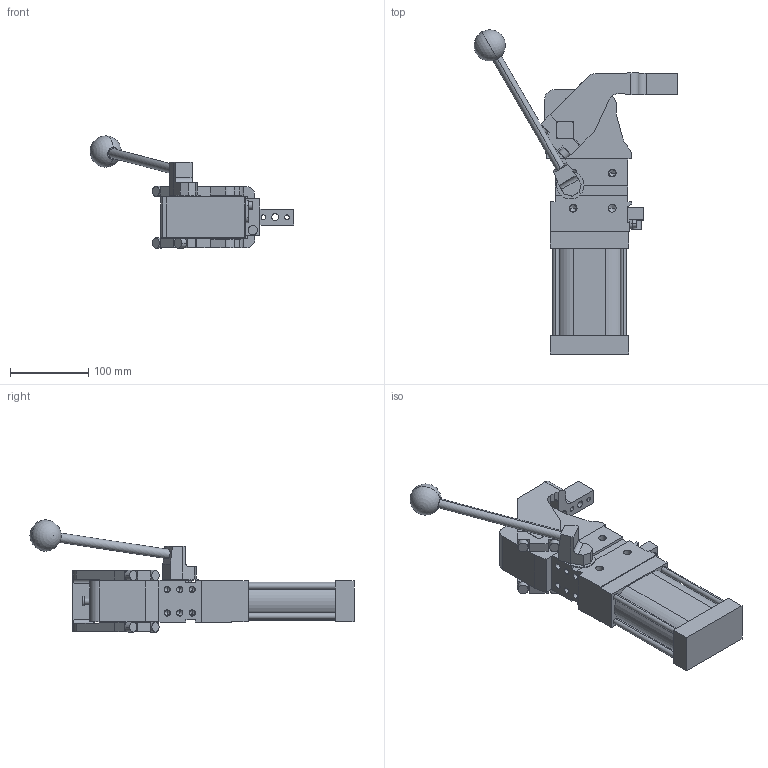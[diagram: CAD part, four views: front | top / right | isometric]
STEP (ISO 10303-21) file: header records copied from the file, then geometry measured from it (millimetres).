
FILE_DESCRIPTION (( 'STEP AP214' ), '1' );
FILE_NAME ('cplm63lav3csi1g_26.STEP', '2023-01-26T15:00:39', ( '' ), ( '' ), 'SwSTEP 2.0', 'SolidWorks 2022', '' );
FILE_SCHEMA (( 'AUTOMOTIVE_DESIGN' ));
Length unit declared in the file: millimetre
Products named in the file (5): blocchetto_VEP_0; comando_manuale_cplm_63; leva_cx_offset_45_cpl63; cplm63lav3csi1g_26; meccanica_cplm_63
Assembly tree (4 placements, depth 2):
  cplm63lav3csi1g_26
    meccanica_cplm_63
    blocchetto_VEP_0
    leva_cx_offset_45_cpl63
    comando_manuale_cplm_63
Bounding box: 260.57 x 414.56 x 143.5 mm (x, y, z)
Volume: 1879230.1 mm3; surface area: 210274.1 mm2
Topology: 4 solids, 4 shells, 432 faces, 1134 edges, 703 vertices
Faces by surface type: plane 219, cylinder 161, cone 50, sphere 2
Entity records: 14579 total; most frequent: DIRECTION 2315, CARTESIAN_POINT 2298, ORIENTED_EDGE 2166, EDGE_CURVE 1083, AXIS2_PLACEMENT_3D 799, LINE 717, VECTOR 717, VERTEX_POINT 700
